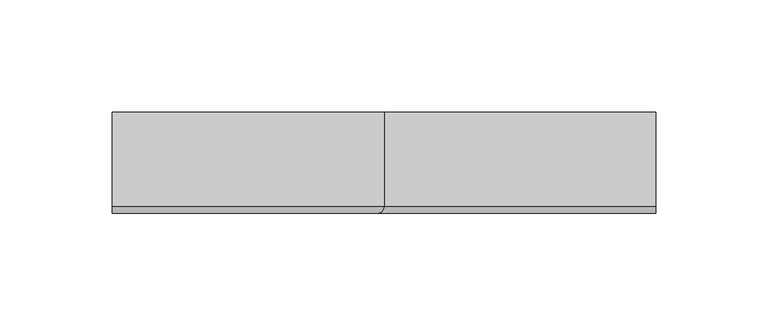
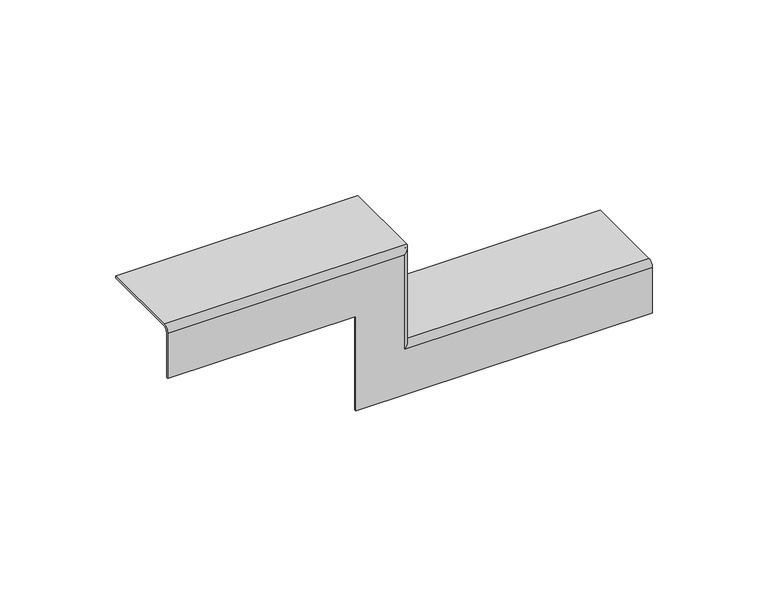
"""IFC4 building model written with IfcOpenShell, lengths in millimetres: cable carrier fitting geometry, КМ Профиль L Переходник для лестничного лотка LPDP  : Переходник для лестничного лотка LPDP."""

from ifc_helpers import new_model, si_unit, frame, origin, place, context, project, spatial, polyline, circle_curve, ellipse_curve, source, transform, mapped, element, save
from ifc_brep_helpers import plane_surface, cylinder_surface, revolved_surface, advanced_brep


def cable_carrier_fitting_52e53747(model_context):
    return source(origin(), model_context, "Body", "AdvancedBrep", [
        advanced_brep(
        [(-121.0, 22.5, 0.0), (-121.0, 22.5, -1.0), (-121.0, -19.5, -1.0), (-121.0, -21.5, -3.0), (-121.0, -21.5, -27.0), (-121.0, -22.5, -27.0), (-121.0, -22.5, -3.0), (-121.0, -19.5, 0.0), (0.0, 22.5, 0.0), (0.0, 22.5, -50.0), (121.0, 22.5, -50.0), (121.0, 22.5, -51.0), (-1.0, 22.5, -51.0), (-1.0, 22.5, -1.0), (-1.0, -19.5, -1.0), (-3.0, -21.5, -3.0), (-3.0, -21.5, -53.0), (121.0, -21.5, -53.0), (121.0, -21.5, -77.0), (-27.0, -21.5, -77.0), (-27.0, -21.5, -27.0), (-27.0, -22.5, -27.0), (-27.0, -22.5, -77.0), (121.0, -22.5, -77.0), (121.0, -22.5, -53.0), (-3.0, -22.5, -53.0), (-3.0, -22.5, -3.0), (0.0, -19.5, 0.0), (-1.0, -19.5, -51.0), (0.0, -19.5, -50.0), (121.0, -19.5, -50.0), (121.0, -19.5, -51.0)],
        [
            (0, 1),
            (1, 2),
            (2, 3, circle_curve(frame((-121.0, -19.5, -3.0), z_axis=(1.0, 0.0, 0.0), x_axis=(0.0, 0.0, 1.0)), 2.0)),
            (3, 4),
            (4, 5),
            (5, 6),
            (6, 7, circle_curve(frame((-121.0, -19.5, -3.0), z_axis=(-1.0, 0.0, 0.0), x_axis=(0.0, 0.0, 1.0)), 3.0)),
            (7, 0),
            (0, 8),
            (8, 9),
            (9, 10),
            (10, 11),
            (11, 12),
            (12, 13),
            (13, 1),
            (13, 14),
            (14, 2),
            (14, 15, ellipse_curve(frame((-3.0, -19.5, -3.0), z_axis=(0.7071067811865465, 0.0, -0.7071067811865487), x_axis=(0.7071067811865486, 0.0, 0.7071067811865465)), 2.8284271, 2.0)),
            (15, 3),
            (15, 16),
            (16, 17),
            (17, 18),
            (18, 19),
            (19, 20),
            (20, 4),
            (20, 21),
            (21, 5),
            (21, 22),
            (22, 23),
            (23, 24),
            (24, 25),
            (25, 26),
            (26, 6),
            (26, 27, ellipse_curve(frame((-3.0, -19.5, -3.0), z_axis=(-0.7071067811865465, 0.0, 0.7071067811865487), x_axis=(-0.7071067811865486, 0.0, -0.7071067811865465)), 4.2426407, 3.0)),
            (27, 7),
            (27, 8),
            (12, 28),
            (28, 14),
            (28, 16, ellipse_curve(frame((-3.0, -19.5, -53.0), z_axis=(0.7071067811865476, 0.0, -0.7071067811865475), x_axis=(-0.7071067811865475, 0.0, -0.7071067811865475)), 2.8284271, 2.0)),
            (19, 22),
            (25, 29, ellipse_curve(frame((-3.0, -19.5, -53.0), z_axis=(-0.7071067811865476, 0.0, 0.7071067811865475), x_axis=(0.7071067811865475, 0.0, 0.7071067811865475)), 4.2426407, 3.0)),
            (29, 27),
            (29, 9),
            (10, 30),
            (30, 24, circle_curve(frame((121.0, -19.5, -53.0), z_axis=(1.0, 0.0, 0.0), x_axis=(0.0, 0.0, 1.0)), 3.0)),
            (23, 18),
            (17, 31, circle_curve(frame((121.0, -19.5, -53.0), z_axis=(-1.0, 0.0, 0.0), x_axis=(0.0, 0.0, 1.0)), 2.0)),
            (31, 11),
            (31, 28),
            (30, 29),
        ],
        [
            plane_surface(frame((-121.0, 0.0, 0.0), z_axis=(-1.0, 0.0, 0.0), x_axis=(0.0, -1.0, 0.0))),
            plane_surface(frame((-121.0, 22.5, 0.0), z_axis=(0.0, 1.0, 0.0), x_axis=(1.0, 0.0, 0.0))),
            plane_surface(frame((-121.0, 22.5, -1.0), z_axis=(0.0, 0.0, -1.0), x_axis=(1.0, 0.0, 0.0))),
            revolved_surface(polyline([(-1.0, -19.5, -1.0), (-121.0, -19.5, -1.0)]), (-121.0, -19.5, -3.0), (1.0, 0.0, 0.0)),
            plane_surface(frame((-121.0, -21.5, -3.0), z_axis=(0.0, 1.0, 0.0), x_axis=(1.0, 0.0, 0.0))),
            plane_surface(frame((-121.0, -21.5, -27.0), z_axis=(0.0, 0.0, -1.0), x_axis=(1.0, 0.0, 0.0))),
            plane_surface(frame((-121.0, -22.5, -27.0), z_axis=(0.0, -1.0, 0.0), x_axis=(1.0, 0.0, 0.0))),
            cylinder_surface(frame((-121.0, -19.5, -3.0), z_axis=(-1.0, 0.0, 0.0), x_axis=(0.0, 0.0, 1.0)), 3.0),
            plane_surface(frame((-121.0, -19.5, 0.0), z_axis=(0.0, 0.0, 1.0), x_axis=(1.0, 0.0, 0.0))),
            plane_surface(frame((-1.0, 22.5, -1.0), z_axis=(-1.0, 0.0, 0.0), x_axis=(0.0, 0.0, -1.0))),
            revolved_surface(polyline([(-1.0, -19.5, -54.9999999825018), (-1.0, -19.5, -1.0)]), (-3.0, -19.5, 0.0), (0.0, 0.0, -1.0)),
            plane_surface(frame((-27.0, -21.5, -27.0), z_axis=(-1.0, 0.0, 0.0), x_axis=(0.0, 0.0, -1.0))),
            cylinder_surface(frame((-3.0, -19.5, 0.0), z_axis=(0.0, 0.0, 1.0), x_axis=(1.0, 0.0, 0.0)), 3.0),
            plane_surface(frame((0.0, -19.5, 0.0), z_axis=(1.0, 0.0, 0.0), x_axis=(0.0, 0.0, -1.0))),
            plane_surface(frame((121.0, 0.0, -50.0), z_axis=(1.0, 0.0, 0.0), x_axis=(0.0, -1.0, 0.0))),
            plane_surface(frame((-1.0, 22.5, -51.0), z_axis=(0.0, 0.0, -1.0), x_axis=(1.0, 0.0, 0.0))),
            revolved_surface(polyline([(121.0, -19.5, -51.0), (-4.999999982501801, -19.5, -51.0)]), (0.0, -19.5, -53.0), (1.0, 0.0, 0.0)),
            plane_surface(frame((-27.0, -21.5, -77.0), z_axis=(0.0, 0.0, -1.0), x_axis=(1.0, 0.0, 0.0))),
            cylinder_surface(frame((0.0, -19.5, -53.0), z_axis=(-1.0, 0.0, 0.0), x_axis=(0.0, 0.0, 1.0)), 3.0),
            plane_surface(frame((0.0, -19.5, -50.0), z_axis=(0.0, 0.0, 1.0), x_axis=(1.0, 0.0, 0.0))),
        ],
        [
            (0, [[1, 2, 3, 4, 5, 6, 7, 8]]),
            (1, [[-1, 9, 10, 11, 12, 13, 14, 15]]),
            (2, [[-2, -15, 16, 17]]),
            (3, [[-3, -17, 18, 19]]),
            (4, [[-4, -19, 20, 21, 22, 23, 24, 25]]),
            (5, [[-5, -25, 26, 27]]),
            (6, [[-6, -27, 28, 29, 30, 31, 32, 33]]),
            (7, [[-7, -33, 34, 35]]),
            (8, [[-8, -35, 36, -9]]),
            (9, [[-16, -14, 37, 38]]),
            (10, [[-18, -38, 39, -20]]),
            (11, [[-26, -24, 40, -28]]),
            (12, [[-34, -32, 41, 42]]),
            (13, [[-36, -42, 43, -10]]),
            (14, [[44, 45, -30, 46, -22, 47, 48, -12]]),
            (15, [[-37, -13, -48, 49]]),
            (16, [[-39, -49, -47, -21]]),
            (17, [[-40, -23, -46, -29]]),
            (18, [[-41, -31, -45, 50]]),
            (19, [[-43, -50, -44, -11]]),
        ],
    ),
    ])


if __name__ == "__main__":
    model = new_model("IFC4")
    model_context = context("Model", 3, world=origin())
    ifc_project = project(units=[si_unit("LENGTHUNIT", "METRE", prefix="MILLI")], contexts=[model_context])
    site = spatial("IfcSite", under=ifc_project)
    building = spatial("IfcBuilding", under=site)
    placement = place(None, origin())
    cable_carrier_fitting_shape = cable_carrier_fitting_52e53747(model_context)
    element("IfcCableCarrierFitting", 1, ObjectType="КМ Профиль L Переходник для лестничного лотка LPDP  : Переходник для лестничного лотка LPDP", at=placement, inside=building, context=model_context, shape_type="MappedRepresentation", body=[
        mapped(cable_carrier_fitting_shape, transform((0.0, 0.0, 0.0), x_axis=(1.0, 0.0, 0.0), y_axis=(0.0, 1.0, 0.0), z_axis=(0.0, 0.0, 1.0))),
    ])
    save(model, "model.ifc")
